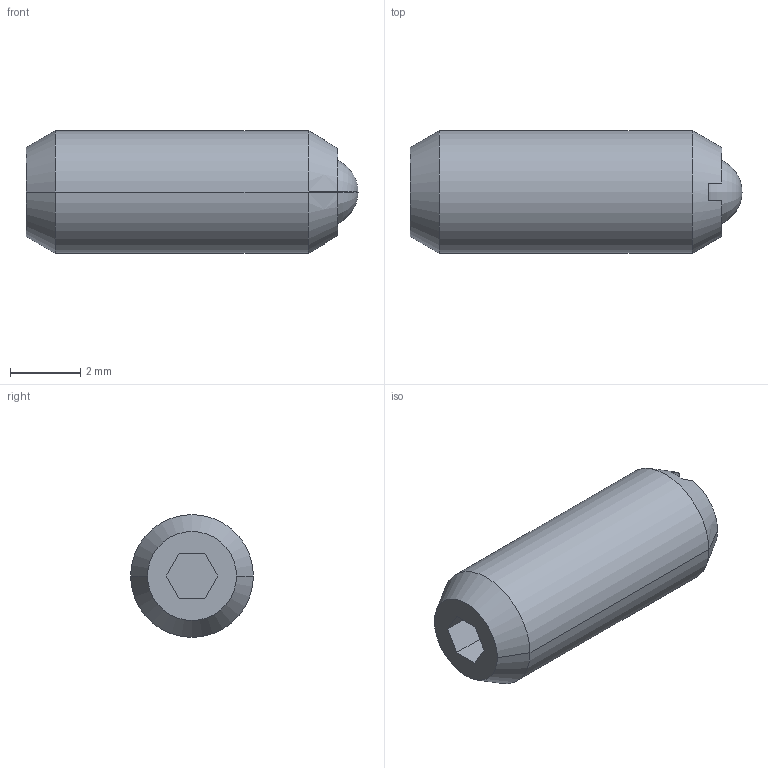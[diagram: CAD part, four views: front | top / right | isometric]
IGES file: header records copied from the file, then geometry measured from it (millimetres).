
Start section:  PTC IGES file: phb48a-3d.igs
Global section: file name: phb48a-3d.igs; native system: Pro/ENGINEER by Parametric Technology Corporation; preprocessor: 2002350; author: chant; organization: Unknown; date: 061026.093455; units: inch
Bounding box: 9.47 x 3.51 x 3.51 mm (x, y, z)
Surface area: 143.2 mm2 (no closed solid volume)
Topology: 0 solids, 0 shells, 27 faces, 191 edges, 241 vertices
Faces by surface type: bspline 15, revolution 12
